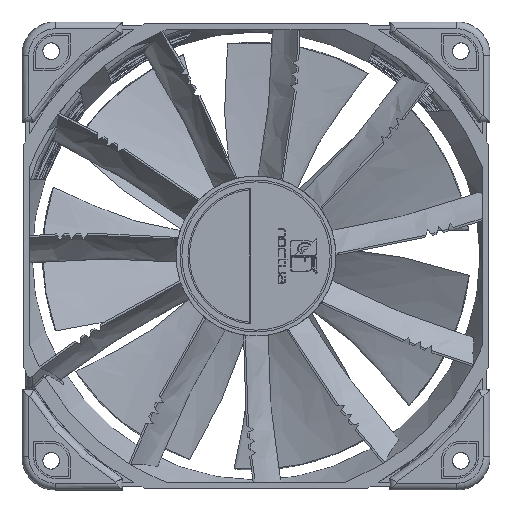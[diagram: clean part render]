
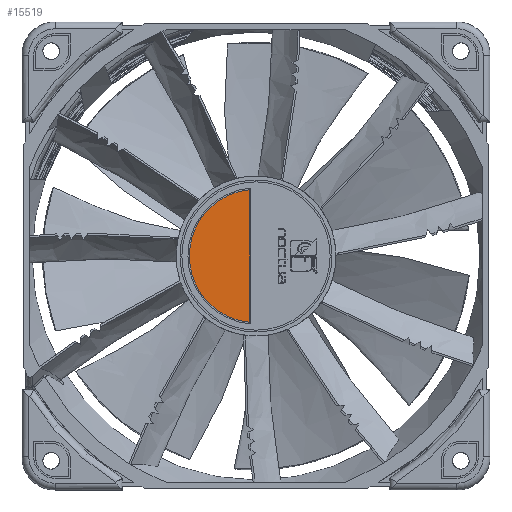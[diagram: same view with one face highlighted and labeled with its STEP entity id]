
A CAD part, front view. The second image highlights one B-rep face of the part: STEP entity #15519.
In plain terms, the highlighted planar face has unit normal (0, -1, 0) as drawn and (0, 0, 1) by its records, which use the part's own axes.
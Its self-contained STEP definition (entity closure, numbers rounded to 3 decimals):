
#1904=CIRCLE('',#17550,17.1);
#6575=ORIENTED_EDGE('',*,*,#8666,.T.);
#6576=ORIENTED_EDGE('',*,*,#8669,.T.);
#8666=EDGE_CURVE('',#10376,#10377,#11213,.T.);
#8669=EDGE_CURVE('',#10377,#10376,#1904,.T.);
#10376=VERTEX_POINT('',#40426);
#10377=VERTEX_POINT('',#40427);
#11213=LINE('',#40425,#12109);
#12109=VECTOR('',#20168,1000.);
#13303=EDGE_LOOP('',(#6575,#6576));
#14282=FACE_BOUND('',#13303,.T.);
#14686=PLANE('',#17694);
#15519=ADVANCED_FACE('',(#14282),#14686,.F.);
#17550=AXIS2_PLACEMENT_3D('',#40431,#20173,#20174);
#17694=AXIS2_PLACEMENT_3D('',#41499,#20679,#20680);
#20168=DIRECTION('',(-1.,0.,0.));
#20173=DIRECTION('',(0.,0.,1.));
#20174=DIRECTION('',(1.,0.,0.));
#20679=DIRECTION('',(0.,0.,-1.));
#20680=DIRECTION('',(-1.,0.,0.));
#40425=CARTESIAN_POINT('',(17.02,-1.65,0.5));
#40426=CARTESIAN_POINT('',(17.02,-1.65,0.5));
#40427=CARTESIAN_POINT('',(-17.02,-1.65,0.5));
#40431=CARTESIAN_POINT('',(0.,0.,0.5));
#41499=CARTESIAN_POINT('',(0.,0.,0.5));
